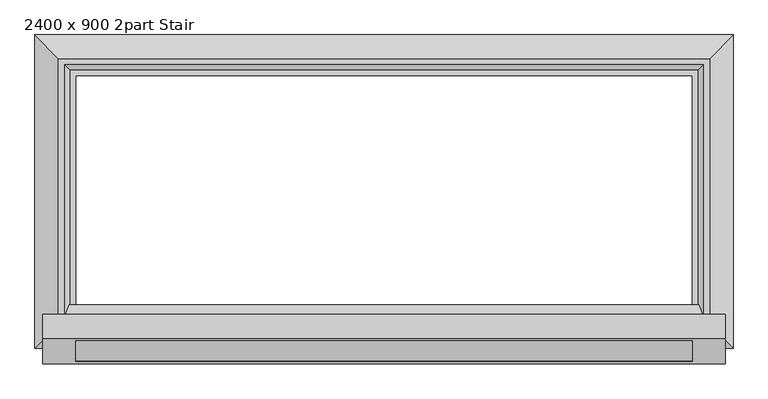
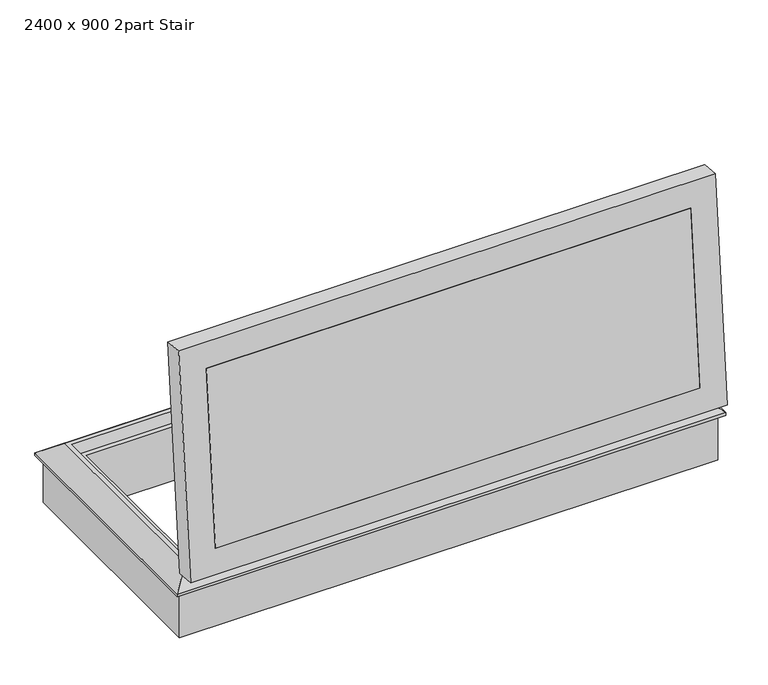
"""IFC4 building model written with IfcOpenShell, lengths in millimetres: proxy geometry, 5_Topaccess_dakluik_2400x900_Staka : 2400 x 900 2part Stair."""

from ifc_helpers import new_model, si_unit, point, frame, frame_2d, origin, place, context, project, spatial, polyline, circle_curve, trimmed, segment, composite_curve, outline, extrude, faceted_brep, source, transform, mapped, element, save


def proxy_2400_x_900_2part_stair_3cd0962f(model_context):
    return source(origin(), model_context, "Body", "SolidModel", [
        extrude(outline(composite_curve([segment(polyline([(-351.5444342, 276.0067762), (-361.4812985, 288.4278565)]), True, "CONTINUOUS"), segment(trimmed(circle_curve(frame_2d((-355.3350725, 291.1218996)), 6.7107348), [point((-361.4812985, 288.4278565))], [point((-361.9072794, 292.478387))], False, "CARTESIAN"), True, "CONTINUOUS"), segment(polyline([(-361.9072794, 292.478387), (-354.7140457, 338.0585674)]), True, "CONTINUOUS"), segment(trimmed(circle_curve(frame_2d((-346.9892475, 335.7323444)), 8.0674544), [point((-354.7140457, 338.0585674))], [point((-340.2418528, 331.310073))], False, "CARTESIAN"), True, "CONTINUOUS"), segment(trimmed(circle_curve(frame_2d((-336.7434698, 329.4859796)), 3.9453771), [point((-340.2418528, 331.310073))], [point((-338.5957121, 326.0024185))], True, "CARTESIAN"), True, "CONTINUOUS"), segment(polyline([(-338.5957121, 326.0024185), (-304.6923057, 313.4884791), (-351.5444342, 276.0067762)]), True, "CONTINUOUS")], self_intersect=False)), frame((-2421.3022237, 0.0, 0.0), z_axis=(1.0, 0.0, 0.0), x_axis=(0.0, 1.0, 0.0)), (0.0, 0.0, 1.0), 36.0838433),
        extrude(outline(composite_curve([segment(polyline([(-304.6923057, 313.4884791), (-351.5444342, 276.0067762), (-361.4812985, 288.4278565)]), True, "CONTINUOUS"), segment(trimmed(circle_curve(frame_2d((-355.3350725, 291.1218996)), 6.7107348), [point((-361.4812985, 288.4278565))], [point((-361.9072794, 292.478387))], False, "CARTESIAN"), True, "CONTINUOUS"), segment(polyline([(-361.9072794, 292.478387), (-354.7140457, 338.0585674)]), True, "CONTINUOUS"), segment(trimmed(circle_curve(frame_2d((-346.9892475, 335.7323444)), 8.0674544), [point((-354.7140457, 338.0585674))], [point((-340.2418528, 331.310073))], False, "CARTESIAN"), True, "CONTINUOUS"), segment(trimmed(circle_curve(frame_2d((-336.7434698, 329.4859796)), 3.9453771), [point((-340.2418528, 331.310073))], [point((-338.5957121, 326.0024185))], True, "CARTESIAN"), True, "CONTINUOUS"), segment(polyline([(-338.5957121, 326.0024185), (-304.6923057, 313.4884791)]), True, "CONTINUOUS")], self_intersect=False)), frame((-264.7004682, 0.0, 0.0), z_axis=(1.0, 0.0, 0.0), x_axis=(0.0, 1.0, 0.0)), (0.0, 0.0, 1.0), 38.5717555),
        faceted_brep([(-61.2697623, 753.4470955, 328.0), (30.7302377, 845.4470955, 254.4), (-2693.2697623, 845.4470955, 254.4), (-2601.2697623, 753.4470955, 328.0), (-105.2697623, 709.4470955, 282.0), (-85.7439208, 728.9729371, 328.0), (-2576.7956039, 728.9729371, 328.0), (-2557.2697623, 709.4470955, 282.0), (-131.2697623, 683.4470955, 0.0), (-131.2697623, 683.4470955, 282.0), (-2531.2697623, 683.4470955, 282.0), (-2531.2697623, 683.4470955, 0.0), (4.7302377, 819.4470955, 240.0), (4.7302377, 819.4470955, 0.0), (-2667.2697623, 819.4470955, 0.0), (-2667.2697623, 819.4470955, 240.0), (30.7302377, 845.4470955, 240.0), (-2693.2697623, 845.4470955, 240.0), (-2693.2697623, -378.5529045, 254.4), (-2601.2697623, -286.5529045, 328.0), (-2576.7956039, -262.078746, 328.0), (-2557.2697623, -242.5529045, 282.0), (-2531.2697623, -216.5529045, 282.0), (-2531.2697623, -216.5529045, 0.0), (-2667.2697623, -352.5529045, 0.0), (-2667.2697623, -352.5529045, 240.0), (-2693.2697623, -378.5529045, 240.0), (30.7302377, -378.5529045, 254.4), (-61.2697623, -286.5529045, 328.0), (-85.7439208, -262.078746, 328.0), (-105.2697623, -242.5529045, 282.0), (-131.2697623, -216.5529045, 282.0), (-131.2697623, -216.5529045, 0.0), (4.7302377, -352.5529045, 0.0), (4.7302377, -352.5529045, 240.0), (30.7302377, -378.5529045, 240.0)], [[[0, 1, 2, 3]], [[4, 5, 6, 7]], [[8, 9, 10, 11]], [[12, 13, 14, 15]], [[1, 16, 17, 2]], [[3, 2, 18, 19]], [[7, 6, 20, 21]], [[11, 10, 22, 23]], [[15, 14, 24, 25]], [[2, 17, 26, 18]], [[19, 18, 27, 28]], [[21, 20, 29, 30]], [[23, 22, 31, 32]], [[25, 24, 33, 34]], [[18, 26, 35, 27]], [[28, 27, 1, 0]], [[3, 19, 28, 0], [5, 29, 20, 6]], [[30, 29, 5, 4]], [[7, 21, 30, 4], [9, 31, 22, 10]], [[32, 31, 9, 8]], [[13, 33, 24, 14], [11, 23, 32, 8]], [[34, 33, 13, 12]], [[16, 35, 26, 17], [15, 25, 34, 12]], [[27, 35, 16, 1]]]),
        extrude(outline(polyline([(0.0, -2405.7), (0.0, 0.0), (139.4, 0.0), (139.4, -2405.7), (0.0, -2405.7)])), frame((-2533.9725908, -428.8183427, 470.0146001), z_axis=(0.0, 0.08715574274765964, 0.9961946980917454), x_axis=(0.0, 0.9961946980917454, -0.08715574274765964)), (0.0, 0.0, 1.0), 901.1),
        faceted_brep([(-128.2725908, -211.412762, 1355.536132), (-128.2725908, -350.2823029, 1367.6856426), (-2533.9725908, -350.2823029, 1367.6856426), (-2533.9725908, -211.412762, 1355.536132), (-85.2725908, -253.8884991, 1402.4165305), (-102.8725908, -209.1990061, 1380.8394774), (-2559.3725908, -209.1990061, 1380.8394774), (-2576.9725908, -253.8884991, 1402.4165305), (0.7274092, -339.0392121, 1496.1947586), (0.7274092, -246.3931052, 1488.0892746), (-2662.9725908, -246.3931052, 1488.0892746), (-2662.9725908, -339.0392121, 1496.1947586), (-2533.9725908, -428.8183427, 470.0146001), (-2533.9725908, -289.9488018, 457.8650896), (-2559.3725908, -292.1625577, 432.5617443), (-2576.9725908, -339.9199327, 419.072744), (-2662.9725908, -347.4153266, 333.4), (-2662.9725908, -440.0614335, 341.5054841), (-128.2725908, -428.8183427, 470.0146001), (-128.2725908, -289.9488018, 457.8650896), (-102.8725908, -292.1625577, 432.5617443), (-85.2725908, -339.9199327, 419.072744), (0.7274092, -347.4153266, 333.4), (0.7274092, -440.0614335, 341.5054841)], [[[0, 1, 2, 3]], [[4, 5, 6, 7]], [[8, 9, 10, 11]], [[3, 2, 12, 13]], [[7, 6, 14, 15]], [[11, 10, 16, 17]], [[13, 12, 18, 19]], [[15, 14, 20, 21]], [[17, 16, 22, 23]], [[19, 18, 1, 0]], [[5, 20, 14, 6], [3, 13, 19, 0]], [[21, 20, 5, 4]], [[9, 22, 16, 10], [7, 15, 21, 4]], [[23, 22, 9, 8]], [[11, 17, 23, 8], [1, 18, 12, 2]]]),
    ])


if __name__ == "__main__":
    model = new_model("IFC4")
    model_context = context("Model", 3, world=origin())
    ifc_project = project(units=[si_unit("LENGTHUNIT", "METRE", prefix="MILLI")], contexts=[model_context])
    site = spatial("IfcSite", under=ifc_project)
    building = spatial("IfcBuilding", under=site)
    placement = place(None, origin())
    proxy_2400_x_900_2part_stair_shape = proxy_2400_x_900_2part_stair_3cd0962f(model_context)
    element("IfcBuildingElementProxy", 1, Name="5_Topaccess_dakluik_2400x900_Staka : 2400 x 900 2part Stair", ObjectType="5_Topaccess_dakluik_2400x900_Staka : 2400 x 900 2part Stair", at=placement, inside=building, context=model_context, shape_type="MappedRepresentation", body=[
        mapped(proxy_2400_x_900_2part_stair_shape, transform((0.0, 0.0, 0.0), x_axis=(1.0, 0.0, 0.0), y_axis=(0.0, 1.0, 0.0), z_axis=(0.0, 0.0, 1.0))),
    ])
    save(model, "model.ifc")
